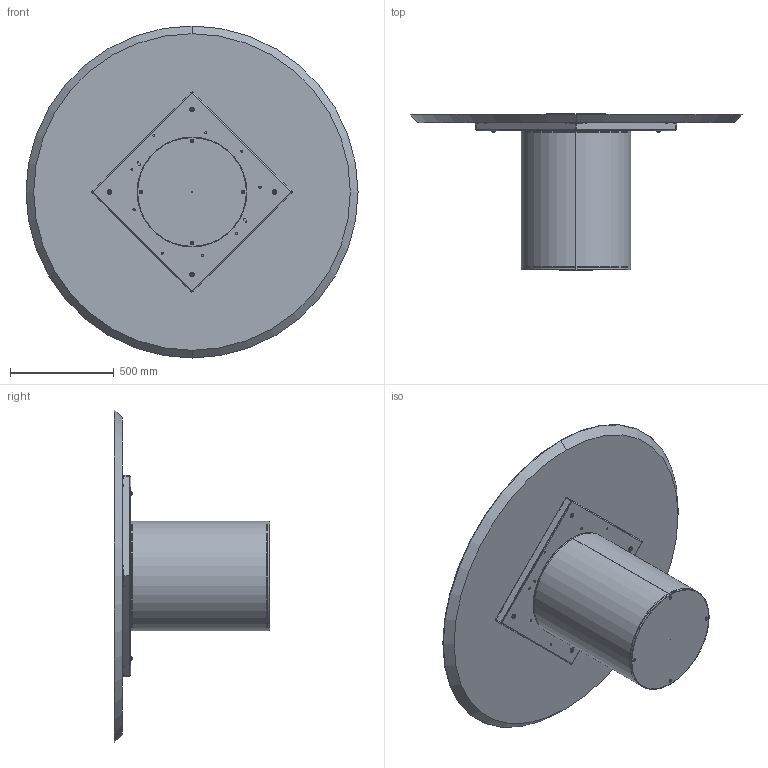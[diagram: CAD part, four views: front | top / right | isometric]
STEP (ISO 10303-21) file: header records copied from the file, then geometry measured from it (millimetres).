
FILE_DESCRIPTION (( 'STEP AP203' ), '1' );
FILE_NAME ('CI08W.STEP', '2024-08-08T07:03:18', ( '' ), ( '' ), 'SwSTEP 2.0', 'SolidWorks 2022', '' );
FILE_SCHEMA (( 'CONFIG_CONTROL_DESIGN' ));
Length unit declared in the file: millimetre
Products named in the file (12): C2B000000_02-01-ZAVORRA IN FERRO D.530mm; TTAV0801 TELAIO UNIVERSALE TONDO-PIASTRINA; CI08W; M8xXXmm_hex_M8X20mm; W1XCMXX-00-Piani Rotondi legno_D.1600; TTAV0801-02-TELAIO UNIVERSALE TONDO; C2B000000-03-CILINDRO BASE D.530mm_Normale; M8xXXmm_M8x55mm; C2B000000_01-00-struttura cilindro D.530mm; TTAV0801-02-TELAIO UNIVERSALE TONDO-VASSOIO; rondella M8_8X24; COLLO TELAIO UNIVERSALE TTAV0801 CON FERRAMENTA_MTG TOP LEGNO-MARMO-KING
Assembly tree (23 placements, depth 4):
  CI08W
    C2B000000-03-CILINDRO BASE D.530mm_Normale
      C2B000000_01-00-struttura cilindro D.530mm
      C2B000000_02-01-ZAVORRA IN FERRO D.530mm
      M8xXXmm_hex_M8X20mm  x4
    COLLO TELAIO UNIVERSALE TTAV0801 CON FERRAMENTA_MTG TOP LEGNO-MARMO-KING
      TTAV0801-02-TELAIO UNIVERSALE TONDO
        TTAV0801-02-TELAIO UNIVERSALE TONDO-VASSOIO
        TTAV0801 TELAIO UNIVERSALE TONDO-PIASTRINA  x4
      rondella M8_8X24  x4
      M8xXXmm_M8x55mm  x4
    W1XCMXX-00-Piani Rotondi legno_D.1600
Bounding box: 1600 x 750 x 1600 mm (x, y, z)
Volume: 84337941.6 mm3; surface area: 8257280.6 mm2
Topology: 23 solids, 23 shells, 862 faces, 2140 edges, 1308 vertices
Faces by surface type: plane 380, cylinder 326, cone 86, torus 56, sphere 14
Entity records: 17104 total; most frequent: DIRECTION 2838, CARTESIAN_POINT 2690, ORIENTED_EDGE 2566, EDGE_CURVE 1283, AXIS2_PLACEMENT_3D 1043, VERTEX_POINT 809, LINE 752, VECTOR 752
